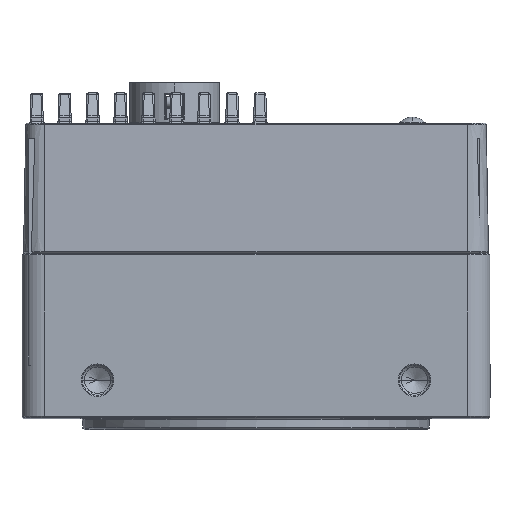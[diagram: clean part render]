
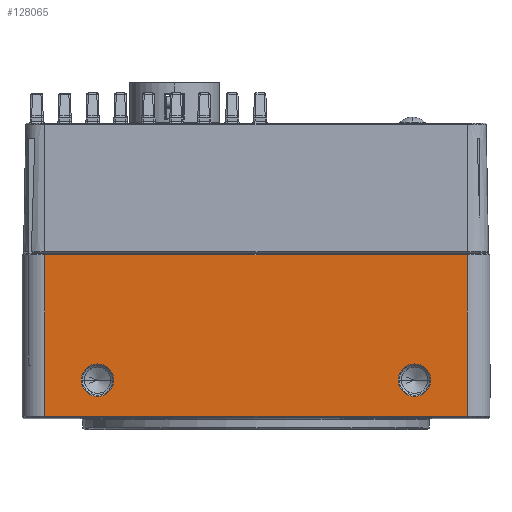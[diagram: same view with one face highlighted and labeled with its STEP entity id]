
A CAD part, top view. The second image highlights one B-rep face of the part: STEP entity #128065.
In plain terms, the highlighted planar face has unit normal (0, 0, 1).
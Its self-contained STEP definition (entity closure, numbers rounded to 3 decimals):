
#110190=DIRECTION('',(-1.,0.,0.));
#110191=VECTOR('',#110190,56.);
#110192=CARTESIAN_POINT('',(65.2,-52.95,
62.));
#110193=LINE('',#110192,#110191);
#110226=DIRECTION('',(0.,1.,0.));
#110227=VECTOR('',#110226,21.4);
#110228=CARTESIAN_POINT('',(65.2,-74.35,
62.));
#110229=LINE('',#110228,#110227);
#110444=DIRECTION('',(0.,-1.,0.));
#110445=VECTOR('',#110444,21.4);
#110446=CARTESIAN_POINT('',(9.2,-52.95,
62.));
#110447=LINE('',#110446,#110445);
#110451=DIRECTION('',(-1.,0.,0.));
#110452=VECTOR('',#110451,56.);
#110453=CARTESIAN_POINT('',(65.2,-74.35,
62.));
#110454=LINE('',#110453,#110452);
#110458=CARTESIAN_POINT('',(16.2,-69.55,62.));
#110459=DIRECTION('',(0.,0.,1.));
#110460=DIRECTION('',(-1.,0.,0.));
#110461=AXIS2_PLACEMENT_3D('',#110458,#110459,#110460);
#110466=CARTESIAN_POINT('',(16.2,-69.55,62.));
#110467=DIRECTION('',(0.,0.,1.));
#110468=DIRECTION('',(0.,-1.,0.));
#110469=AXIS2_PLACEMENT_3D('',#110466,#110467,#110468);
#110474=CARTESIAN_POINT('',(16.2,-69.55,62.));
#110475=DIRECTION('',(0.,0.,1.));
#110476=DIRECTION('',(1.,0.,0.));
#110477=AXIS2_PLACEMENT_3D('',#110474,#110475,#110476);
#110482=CARTESIAN_POINT('',(16.2,-69.55,62.));
#110483=DIRECTION('',(0.,0.,1.));
#110484=DIRECTION('',(0.,1.,0.));
#110485=AXIS2_PLACEMENT_3D('',#110482,#110483,#110484);
#110490=CARTESIAN_POINT('',(58.2,-69.55,62.));
#110491=DIRECTION('',(0.,0.,1.));
#110492=DIRECTION('',(1.,0.,0.));
#110493=AXIS2_PLACEMENT_3D('',#110490,#110491,#110492);
#110498=CARTESIAN_POINT('',(58.2,-69.55,62.));
#110499=DIRECTION('',(0.,0.,1.));
#110500=DIRECTION('',(0.,1.,0.));
#110501=AXIS2_PLACEMENT_3D('',#110498,#110499,#110500);
#110506=CARTESIAN_POINT('',(58.2,-69.55,62.));
#110507=DIRECTION('',(0.,0.,1.));
#110508=DIRECTION('',(-1.,0.,0.));
#110509=AXIS2_PLACEMENT_3D('',#110506,#110507,#110508);
#110514=CARTESIAN_POINT('',(58.2,-69.55,62.));
#110515=DIRECTION('',(0.,0.,1.));
#110516=DIRECTION('',(0.,-1.,0.));
#110517=AXIS2_PLACEMENT_3D('',#110514,#110515,#110516);
#125485=CARTESIAN_POINT('',(9.2,-52.95,
62.));
#125486=VERTEX_POINT('',#125485);
#125487=CARTESIAN_POINT('',(65.2,-52.95,
62.));
#125488=VERTEX_POINT('',#125487);
#125489=CARTESIAN_POINT('',(65.2,-74.35,62.));
#125490=VERTEX_POINT('',#125489);
#125581=CARTESIAN_POINT('',(9.2,-74.35,
62.));
#125582=VERTEX_POINT('',#125581);
#125583=CARTESIAN_POINT('',(16.2,-71.7,62.));
#125584=CARTESIAN_POINT('',(18.35,-69.55,62.));
#125585=VERTEX_POINT('',#125583);
#125586=VERTEX_POINT('',#125584);
#125587=CARTESIAN_POINT('',(14.05,-69.55,62.));
#125588=VERTEX_POINT('',#125587);
#125589=CARTESIAN_POINT('',(16.2,-67.4,62.));
#125590=VERTEX_POINT('',#125589);
#125591=CARTESIAN_POINT('',(58.2,-67.4,62.));
#125592=CARTESIAN_POINT('',(56.05,-69.55,62.));
#125593=VERTEX_POINT('',#125591);
#125594=VERTEX_POINT('',#125592);
#125595=CARTESIAN_POINT('',(60.35,-69.55,62.));
#125596=VERTEX_POINT('',#125595);
#125597=CARTESIAN_POINT('',(58.2,-71.7,62.));
#125598=VERTEX_POINT('',#125597);
#128033=CARTESIAN_POINT('',(6.2,-39.55,62.));
#128034=DIRECTION('',(0.,0.,1.));
#128035=DIRECTION('',(1.,0.,0.));
#128036=AXIS2_PLACEMENT_3D('',#128033,#128034,#128035);
#128037=PLANE('',#128036);
#128038=ORIENTED_EDGE('',*,*,#127737,.F.);
#128039=ORIENTED_EDGE('',*,*,#127779,.F.);
#128041=ORIENTED_EDGE('',*,*,#128040,.T.);
#128042=ORIENTED_EDGE('',*,*,#128018,.F.);
#128043=EDGE_LOOP('',(#128038,#128039,#128041,#128042));
#128044=FACE_OUTER_BOUND('',#128043,.F.);
#128046=ORIENTED_EDGE('',*,*,#128045,.T.);
#128048=ORIENTED_EDGE('',*,*,#128047,.T.);
#128050=ORIENTED_EDGE('',*,*,#128049,.T.);
#128052=ORIENTED_EDGE('',*,*,#128051,.T.);
#128053=EDGE_LOOP('',(#128046,#128048,#128050,#128052));
#128054=FACE_BOUND('',#128053,.F.);
#128056=ORIENTED_EDGE('',*,*,#128055,.T.);
#128058=ORIENTED_EDGE('',*,*,#128057,.T.);
#128060=ORIENTED_EDGE('',*,*,#128059,.T.);
#128062=ORIENTED_EDGE('',*,*,#128061,.T.);
#128063=EDGE_LOOP('',(#128056,#128058,#128060,#128062));
#128064=FACE_BOUND('',#128063,.F.);
#128065=ADVANCED_FACE('',(#128044,#128054,#128064),#128037,.T.);
#110462=CIRCLE('',#110461,2.15);
#110470=CIRCLE('',#110469,2.15);
#110478=CIRCLE('',#110477,2.15);
#110486=CIRCLE('',#110485,2.15);
#110494=CIRCLE('',#110493,2.15);
#110502=CIRCLE('',#110501,2.15);
#110510=CIRCLE('',#110509,2.15);
#110518=CIRCLE('',#110517,2.15);
#127737=EDGE_CURVE('',#125488,#125486,#110193,.T.);
#127779=EDGE_CURVE('',#125490,#125488,#110229,.T.);
#128018=EDGE_CURVE('',#125486,#125582,#110447,.T.);
#128040=EDGE_CURVE('',#125490,#125582,#110454,.T.);
#128045=EDGE_CURVE('',#125588,#125585,#110462,.T.);
#128047=EDGE_CURVE('',#125585,#125586,#110470,.T.);
#128049=EDGE_CURVE('',#125586,#125590,#110478,.T.);
#128051=EDGE_CURVE('',#125590,#125588,#110486,.T.);
#128055=EDGE_CURVE('',#125596,#125593,#110494,.T.);
#128057=EDGE_CURVE('',#125593,#125594,#110502,.T.);
#128059=EDGE_CURVE('',#125594,#125598,#110510,.T.);
#128061=EDGE_CURVE('',#125598,#125596,#110518,.T.);
